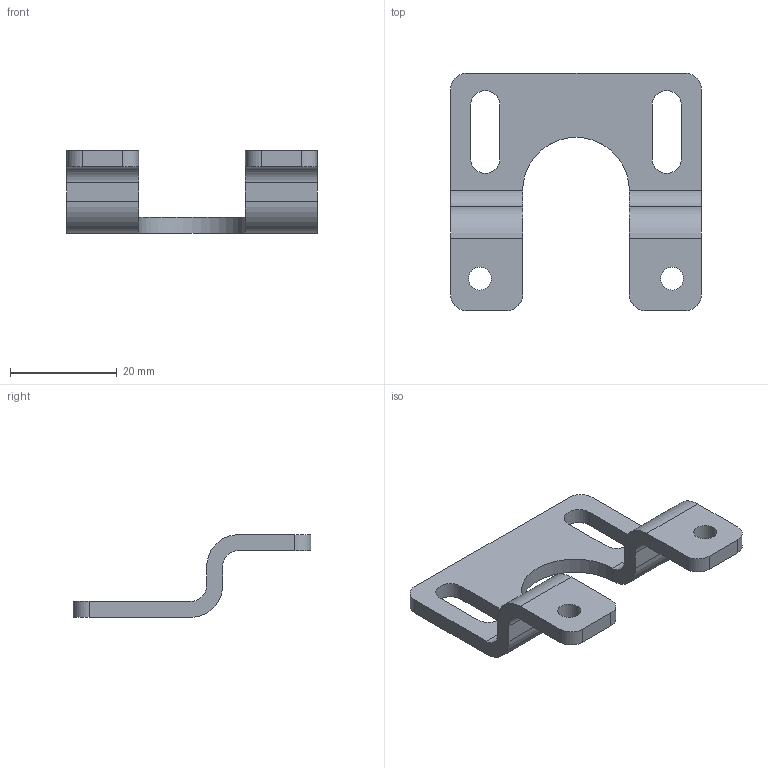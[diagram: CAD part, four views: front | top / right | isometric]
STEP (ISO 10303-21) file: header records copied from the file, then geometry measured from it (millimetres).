
FILE_DESCRIPTION((''),'2;1');
FILE_NAME('F:\AirCom-Produktdokumentation\Befestigungswinkel-Muttern\CAD\CAD AirCom\3D\B-BW00-15.stp','2008-09-29T15:44:11',('Frank Schroers'),(''),'Autodesk Inventor 2008','Autodesk Inventor 2008','');
FILE_SCHEMA(('AUTOMOTIVE_DESIGN { 1 0 10303 214 1 1 1 1 }'));
Length unit declared in the file: millimetre
Products named in the file (1): B-BW00-15
Bounding box: 47 x 44.5 x 15.5 mm (x, y, z)
Volume: 4558.4 mm3; surface area: 4142.4 mm2
Topology: 1 solids, 1 shells, 42 faces, 116 edges, 76 vertices
Faces by surface type: cylinder 21, plane 21
Full cylindrical faces by diameter (mm): 4.3 x2
Entity records: 1382 total; most frequent: DIRECTION 242, CARTESIAN_POINT 233, ORIENTED_EDGE 228, EDGE_CURVE 114, AXIS2_PLACEMENT_3D 85, VERTEX_POINT 76, VECTOR 72, LINE 72
